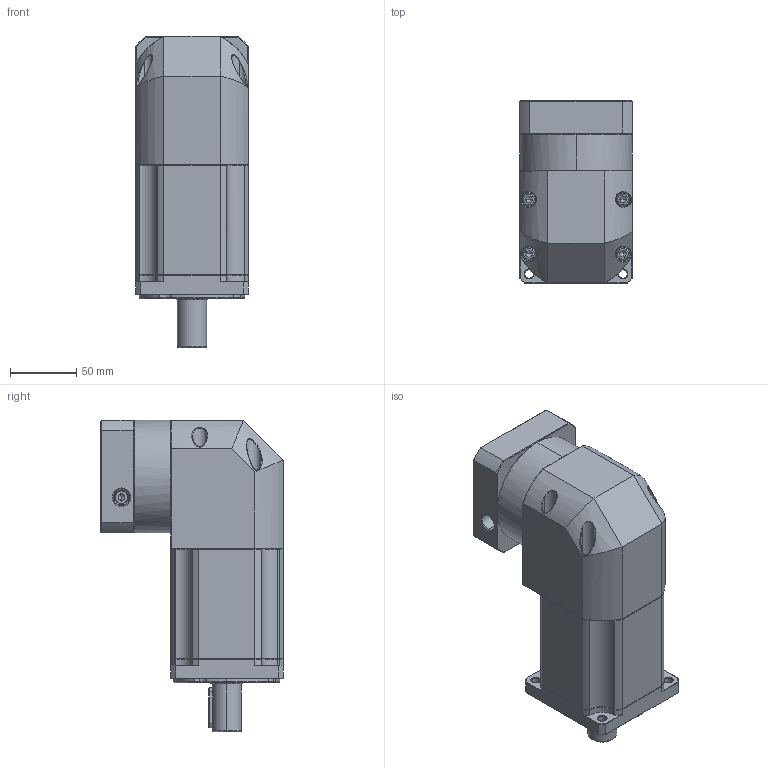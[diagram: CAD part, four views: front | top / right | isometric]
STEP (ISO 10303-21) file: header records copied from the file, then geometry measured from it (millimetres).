
FILE_DESCRIPTION (( 'STEP AP214' ), '1' );
FILE_NAME ('ZBR090-D22-L3-P2-19-70-90-M5.step', '2023-08-19T02:08:04', ( '' ), ( '' ), 'SwSTEP 2.0', 'SolidWorks 2016', '' );
FILE_SCHEMA (( 'AUTOMOTIVE_DESIGN' ));
Length unit declared in the file: millimetre
Products named in the file (1): ZBR090-D22-L3-P2-19-70-90-M5
Bounding box: 85 x 137.6 x 235 mm (x, y, z)
Volume: 1494259.5 mm3; surface area: 144223.8 mm2
Topology: 5 solids, 5 shells, 2402 faces, 6273 edges, 3963 vertices
Faces by surface type: plane 1157, cylinder 447, bspline 421, cone 351, torus 26
Entity records: 129534 total; most frequent: CARTESIAN_POINT 47779, ORIENTED_EDGE 12470, DIRECTION 9909, EDGE_CURVE 6235, VECTOR 3965, LINE 3965, VERTEX_POINT 3963, AXIS2_PLACEMENT_3D 2972
